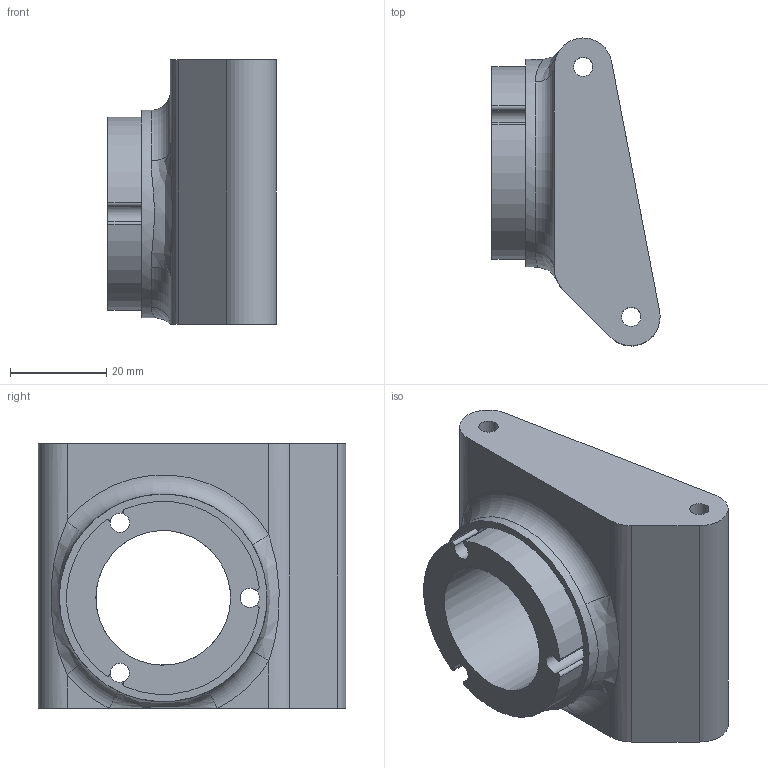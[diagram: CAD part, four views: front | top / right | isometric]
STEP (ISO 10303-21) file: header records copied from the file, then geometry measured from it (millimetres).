
FILE_DESCRIPTION(/* description */ ('CAx-IF Rec.Pracs.---Representation and Presentation of Product Manufacturing Information (PMI)---4.0---2014-10-13','CAx-IF Rec.Pracs.---3D Tessellated Geometry---0.4---2014-09-14','2;1'),/* implementation_level */ '2;1');
FILE_NAME(/* name */ 'qc1_p55',/* time_stamp */ '2026-07-26T03:04:59+03:00',/* author */ (''),/* organization */ (''),/* preprocessor_version */ 'ST-DEVELOPER v19.4',/* originating_system */ 'SIEMENS PLM Software NX2306.1700',/* authorisation */ $);
FILE_SCHEMA (('AP242_MANAGED_MODEL_BASED_3D_ENGINEERING_MIM_LF { 1 0 10303 442 3 1 4 }'));
Length unit declared in the file: millimetre
Products named in the file (1): qc1_p55
Bounding box: 35 x 63.99 x 55.1 mm (x, y, z)
Volume: 50420.7 mm3; surface area: 15150.5 mm2
Topology: 1 solids, 1 shells, 76 faces, 222 edges, 146 vertices
Faces by surface type: plane 36, cylinder 34, torus 3, bspline 3
Full cylindrical faces by diameter (mm): 4.01 x5, 28 x1, 43.2 x1
Entity records: 2585 total; most frequent: CARTESIAN_POINT 518, DIRECTION 446, ORIENTED_EDGE 420, EDGE_CURVE 210, AXIS2_PLACEMENT_3D 167, VERTEX_POINT 141, LINE 112, VECTOR 112
